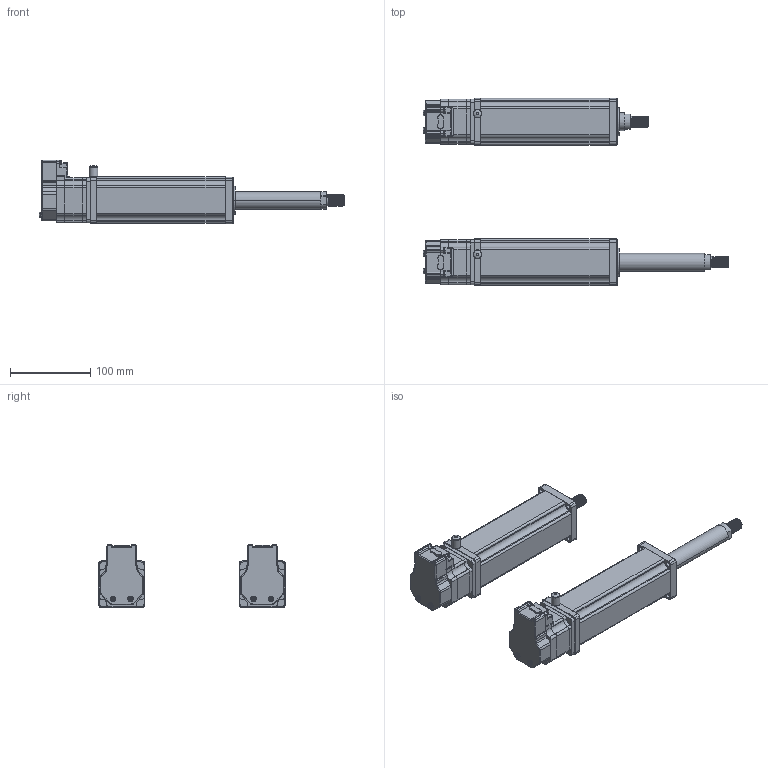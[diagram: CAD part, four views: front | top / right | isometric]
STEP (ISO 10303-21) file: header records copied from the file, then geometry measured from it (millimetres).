
FILE_DESCRIPTION(('FreeCAD Model'),'2;1');
FILE_NAME('Open CASCADE Shape Model','2023-08-04T11:32:53',('Author'),( ''),'Open CASCADE STEP processor 7.5','FreeCAD','Unknown');
FILE_SCHEMA(('AUTOMOTIVE_DESIGN { 1 0 10303 214 1 1 1 1 }'));
Length unit declared in the file: millimetre
Products named in the file (51): Unnamed; Shapes; Shapes001; Shapes002; Shapes003; Shapes004; Shapes005; Shapes006; Shapes007; Shapes008; Shapes009; Shapes010; Shapes011; Shapes012; Shapes013; Shapes014; Shapes015; Shapes016; Shapes017; Shapes018; Shapes019; Shapes020; Shapes021; Shapes022; Shapes023; Shapes024; Shapes025; Shapes026; Shapes027; Shapes028; Shapes029; Shapes030; Shapes031; Shapes032; Shapes033; Shapes034; Shapes035; Shapes036; Shapes037; Shapes038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
Assembly tree (50 placements, depth 2):
  Unnamed
    Shapes
    Shapes001
    Shapes002
    Shapes003
    Shapes004
    Shapes005
    Shapes006
    Shapes007
    Shapes008
    Shapes009
    Shapes010
    Shapes011
    Shapes012
    Shapes013
    Shapes014
    Shapes015
    Shapes016
    Shapes017
    Shapes018
    Shapes019
    Shapes020
    Shapes021
    Shapes022
    Shapes023
    Shapes024
    Shapes025
    Shapes026
    Shapes027
    Shapes028
    Shapes029
    Shapes030
    Shapes031
    Shapes032
    Shapes033
    Shapes034
    Shapes035
    Shapes036
    Shapes037
    Shapes038
    Shapes039
    Shapes040
    Shapes041
    Shapes042
    Shapes043
    Shapes044
    Shapes045
    Shapes047
    Shapes048
    AN10-01
    AN10-002
Bounding box: 381.42 x 233.23 x 79 mm (x, y, z)
Volume: 1510691.7 mm3; surface area: 239394.1 mm2
Topology: 50 solids, 50 shells, 1466 faces, 3880 edges, 2526 vertices
Faces by surface type: plane 830, cylinder 516, bspline 60, torus 46, sphere 10, cone 4
Full cylindrical faces by diameter (mm): 6 x2, 9.728 x2, 11 x2
Entity records: 153701 total; most frequent: CARTESIAN_POINT 75501, DIRECTION 14447, LINE 9073, VECTOR 9073, ORIENTED_EDGE 7728, PCURVE 7728, DEFINITIONAL_REPRESENTATION 7728, EDGE_CURVE 3864
